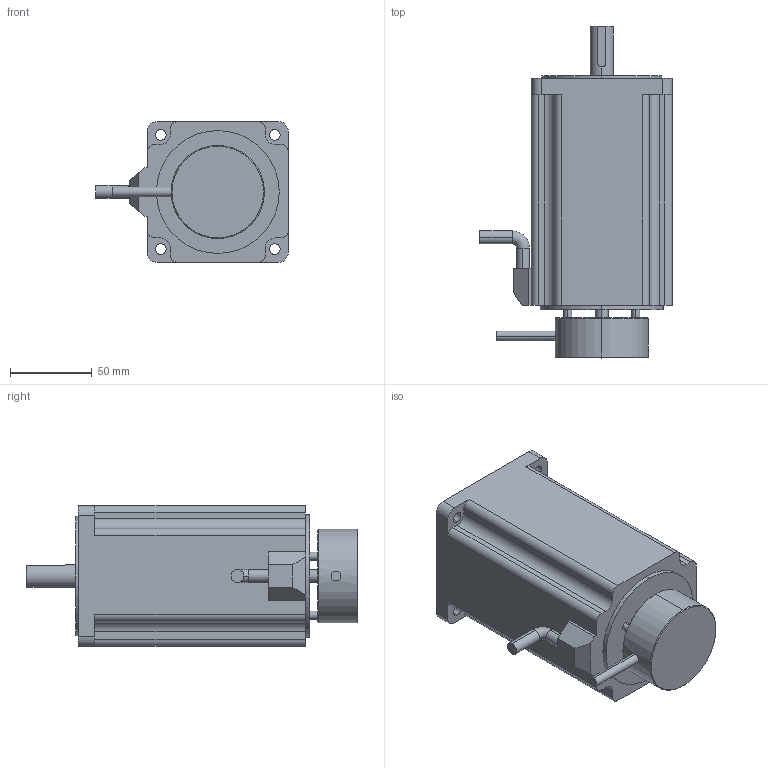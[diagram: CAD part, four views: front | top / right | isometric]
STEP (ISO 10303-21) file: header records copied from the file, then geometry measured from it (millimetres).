
FILE_DESCRIPTION (( 'STEP AP203' ), '1' );
FILE_NAME ('JK86BLS125-22-X001BK.STEP', '2024-11-19T08:00:19', ( '' ), ( '' ), 'SwSTEP 2.0', 'SolidWorks 2020', '' );
FILE_SCHEMA (( 'CONFIG_CONTROL_DESIGN' ));
Length unit declared in the file: millimetre
Products named in the file (1): JK86BLS125-22-X001BK
Bounding box: 117.48 x 202.6 x 86 mm (x, y, z)
Volume: 1012518.6 mm3; surface area: 73862.4 mm2
Topology: 1 solids, 1 shells, 90 faces, 238 edges, 157 vertices
Faces by surface type: cylinder 47, plane 35, cone 6, torus 2
Entity records: 3020 total; most frequent: CARTESIAN_POINT 588, DIRECTION 517, ORIENTED_EDGE 476, EDGE_CURVE 238, AXIS2_PLACEMENT_3D 194, VERTEX_POINT 157, LINE 129, VECTOR 129
